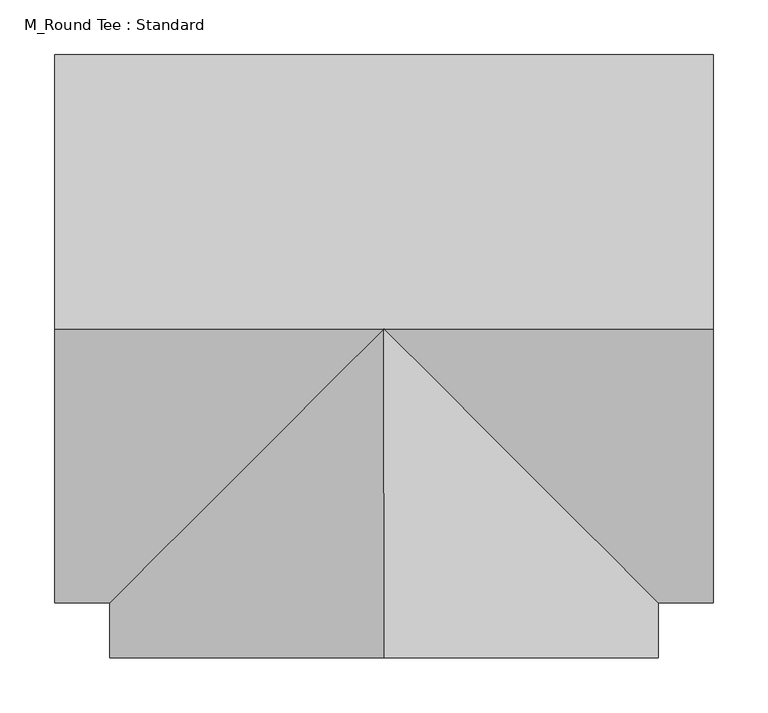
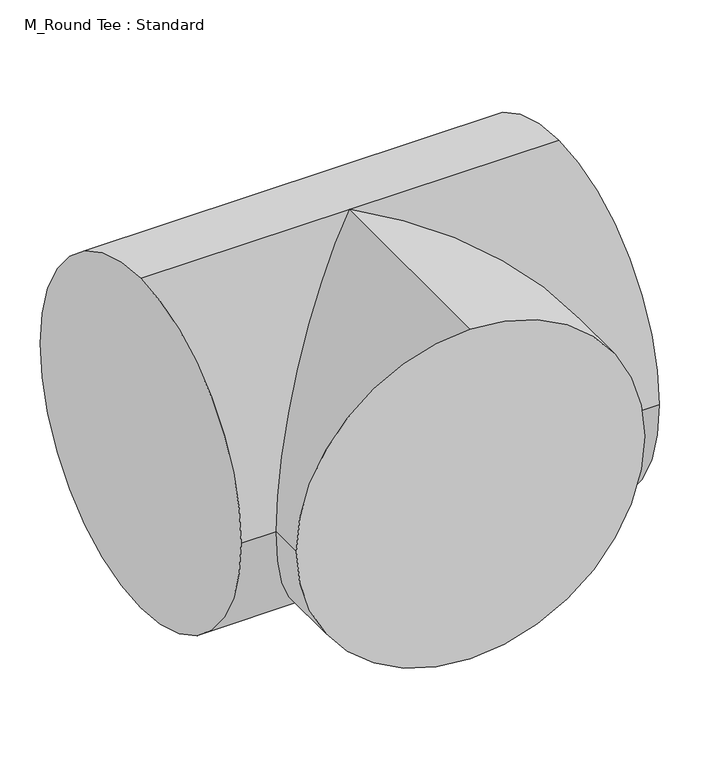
"""IFC4 building model written with IfcOpenShell, lengths in millimetres: duct fitting geometry, M_Round Tee : Standard."""

from ifc_helpers import new_model, si_unit, frame, origin, place, context, project, spatial, circle_curve, ellipse_curve, source, transform, mapped, element, save
from ifc_brep_helpers import plane_surface, cylinder_surface, advanced_brep


def m_round_tee_standard_ed589d36(model_context):
    return source(origin(), model_context, "Body", "AdvancedBrep", [
        advanced_brep(
        [(0.0, -300.0, 250.0), (-250.0, -300.0, 0.0), (0.0, -300.0, -250.0), (250.0, -300.0, 0.0), (250.0, -250.0, 0.0), (0.0, 0.0, 250.0), (0.0, 0.0, -250.0), (-250.0, -250.0, 0.0), (-300.0, 0.0, 250.0), (-300.0, 250.0, 0.0), (-300.0, 0.0, -250.0), (-300.0, -250.0, 0.0), (300.0, 0.0, 250.0), (300.0, -250.0, 0.0), (300.0, 0.0, -250.0), (300.0, 250.0, 0.0)],
        [
            (0, 1, circle_curve(frame((0.0, -300.0, 0.0), z_axis=(0.0, -1.0, 0.0), x_axis=(1.0, 0.0, 0.0)), 250.0)),
            (1, 2, circle_curve(frame((0.0, -300.0, 0.0), z_axis=(0.0, -1.0, 0.0), x_axis=(1.0, 0.0, 0.0)), 250.0)),
            (2, 3, circle_curve(frame((0.0, -300.0, 0.0), z_axis=(0.0, -1.0, 0.0), x_axis=(1.0, 0.0, 0.0)), 250.0)),
            (3, 0, circle_curve(frame((0.0, -300.0, 0.0), z_axis=(0.0, -1.0, 0.0), x_axis=(1.0, 0.0, 0.0)), 250.0)),
            (3, 4),
            (4, 5, ellipse_curve(frame((0.0, 0.0, 0.0), z_axis=(-0.7071067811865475, -0.7071067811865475, 0.0), x_axis=(-0.7071067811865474, 0.7071067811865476, 0.0)), 353.5533906, 250.0)),
            (5, 0),
            (2, 6),
            (6, 4, ellipse_curve(frame((0.0, 0.0, 0.0), z_axis=(-0.7071067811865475, -0.7071067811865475, 0.0), x_axis=(-0.7071067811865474, 0.7071067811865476, 0.0)), 353.5533906, 250.0)),
            (1, 7),
            (7, 6, ellipse_curve(frame((0.0, 0.0, 0.0), z_axis=(0.7071067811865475, -0.7071067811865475, 0.0), x_axis=(0.7071067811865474, 0.7071067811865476, 0.0)), 353.5533906, 250.0)),
            (5, 7, ellipse_curve(frame((0.0, 0.0, 0.0), z_axis=(0.7071067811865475, -0.7071067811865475, 0.0), x_axis=(0.7071067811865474, 0.7071067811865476, 0.0)), 353.5533906, 250.0)),
            (8, 9, circle_curve(frame((-300.0, 0.0, 0.0), z_axis=(-1.0, 0.0, 0.0), x_axis=(0.0, 1.0, 0.0)), 250.0)),
            (9, 10, circle_curve(frame((-300.0, 0.0, 0.0), z_axis=(-1.0, 0.0, 0.0), x_axis=(0.0, 1.0, 0.0)), 250.0)),
            (10, 11, circle_curve(frame((-300.0, 0.0, 0.0), z_axis=(-1.0, 0.0, 0.0), x_axis=(0.0, 1.0, 0.0)), 250.0)),
            (11, 8, circle_curve(frame((-300.0, 0.0, 0.0), z_axis=(-1.0, 0.0, 0.0), x_axis=(0.0, 1.0, 0.0)), 250.0)),
            (12, 13, circle_curve(frame((300.0, 0.0, 0.0), z_axis=(1.0, 0.0, 0.0), x_axis=(0.0, 1.0, 0.0)), 250.0)),
            (13, 14, circle_curve(frame((300.0, 0.0, 0.0), z_axis=(1.0, 0.0, 0.0), x_axis=(0.0, 1.0, 0.0)), 250.0)),
            (14, 15, circle_curve(frame((300.0, 0.0, 0.0), z_axis=(1.0, 0.0, 0.0), x_axis=(0.0, 1.0, 0.0)), 250.0)),
            (15, 12, circle_curve(frame((300.0, 0.0, 0.0), z_axis=(1.0, 0.0, 0.0), x_axis=(0.0, 1.0, 0.0)), 250.0)),
            (8, 5),
            (5, 12),
            (15, 9),
            (14, 6),
            (6, 10),
            (7, 11),
            (13, 4),
        ],
        [
            plane_surface(frame((0.0, -300.0, 0.0), z_axis=(0.0, -1.0, 0.0), x_axis=(0.0, 0.0, 1.0))),
            cylinder_surface(frame((0.0, 0.0, 0.0), z_axis=(0.0, 1.0, 0.0), x_axis=(1.0, 0.0, 0.0)), 250.0),
            plane_surface(frame((-300.0, 0.0, 0.0), z_axis=(-1.0, 0.0, 0.0), x_axis=(0.0, 0.0, 1.0))),
            plane_surface(frame((300.0, 0.0, 0.0), z_axis=(1.0, 0.0, 0.0), x_axis=(0.0, 0.0, 1.0))),
            cylinder_surface(frame((-300.0, 0.0, 0.0), z_axis=(-1.0, 0.0, 0.0), x_axis=(0.0, 1.0, 0.0)), 250.0),
        ],
        [
            (0, [[1, 2, 3, 4]]),
            (1, [[-4, 5, 6, 7]]),
            (1, [[-3, 8, 9, -5]]),
            (1, [[-2, 10, 11, -8]]),
            (1, [[-1, -7, 12, -10]]),
            (2, [[13, 14, 15, 16]]),
            (3, [[17, 18, 19, 20]]),
            (4, [[-13, 21, 22, -20, 23]]),
            (4, [[-14, -23, -19, 24, 25]]),
            (4, [[-15, -25, -11, 26]]),
            (4, [[-18, 27, -9, -24]]),
            (4, [[-16, -26, -12, -21]]),
            (4, [[-17, -22, -6, -27]]),
        ],
    ),
    ])


if __name__ == "__main__":
    model = new_model("IFC4")
    model_context = context("Model", 3, world=origin())
    ifc_project = project(units=[si_unit("LENGTHUNIT", "METRE", prefix="MILLI")], contexts=[model_context])
    site = spatial("IfcSite", under=ifc_project)
    building = spatial("IfcBuilding", under=site)
    placement = place(None, origin())
    m_round_tee_standard_shape = m_round_tee_standard_ed589d36(model_context)
    element("IfcDuctFitting", 1, ObjectType="M_Round Tee : Standard", at=placement, inside=building, context=model_context, shape_type="MappedRepresentation", body=[
        mapped(m_round_tee_standard_shape, transform((0.0, 0.0, 0.0), x_axis=(1.0, 0.0, 0.0), y_axis=(0.0, 1.0, 0.0), z_axis=(0.0, 0.0, 1.0))),
    ])
    save(model, "model.ifc")
